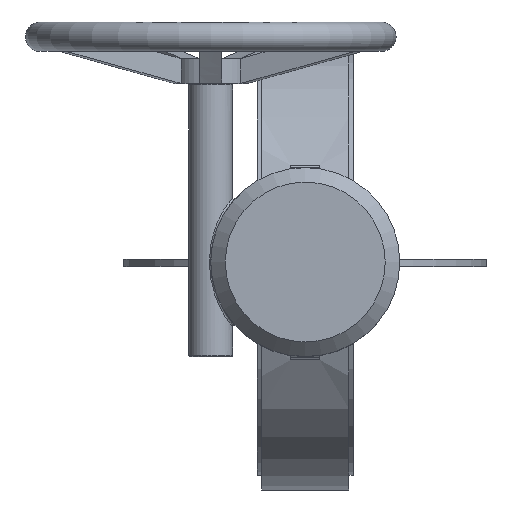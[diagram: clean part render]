
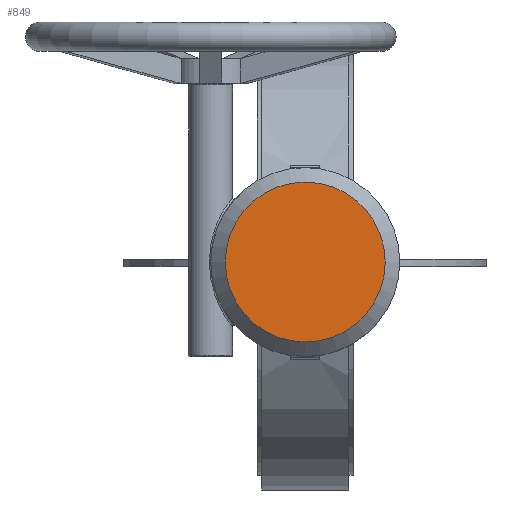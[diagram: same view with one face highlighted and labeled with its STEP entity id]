
A CAD part, top view. The second image highlights one B-rep face of the part: STEP entity #849.
In plain terms, the highlighted planar face has unit normal (0, 0, 1).
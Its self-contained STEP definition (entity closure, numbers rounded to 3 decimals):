
#849=ADVANCED_FACE('',(#2633),#2635,.T.);
#2633=FACE_BOUND('',#2634,.T.);
#2634=EDGE_LOOP('',(#3377));
#2635=PLANE('',#2636);
#2636=AXIS2_PLACEMENT_3D('',#2637,#2638,#2639);
#2637=CARTESIAN_POINT('',(0.,0.,338.));
#2638=DIRECTION('',(0.,0.,1.));
#2639=DIRECTION('',(-1.,0.,0.));
#3377=ORIENTED_EDGE('',*,*,#3747,.T.);
#3747=EDGE_CURVE('',#4163,#4163,#4164,.T.);
#4163=VERTEX_POINT('',#6045);
#4164=CIRCLE('',#6046,55.);
#6045=CARTESIAN_POINT('',(-55.,0.,338.));
#6046=AXIS2_PLACEMENT_3D('',#6047,#6048,#6049);
#6047=CARTESIAN_POINT('',(0.,0.,338.));
#6048=DIRECTION('',(0.,0.,1.));
#6049=DIRECTION('',(-1.,0.,0.));
